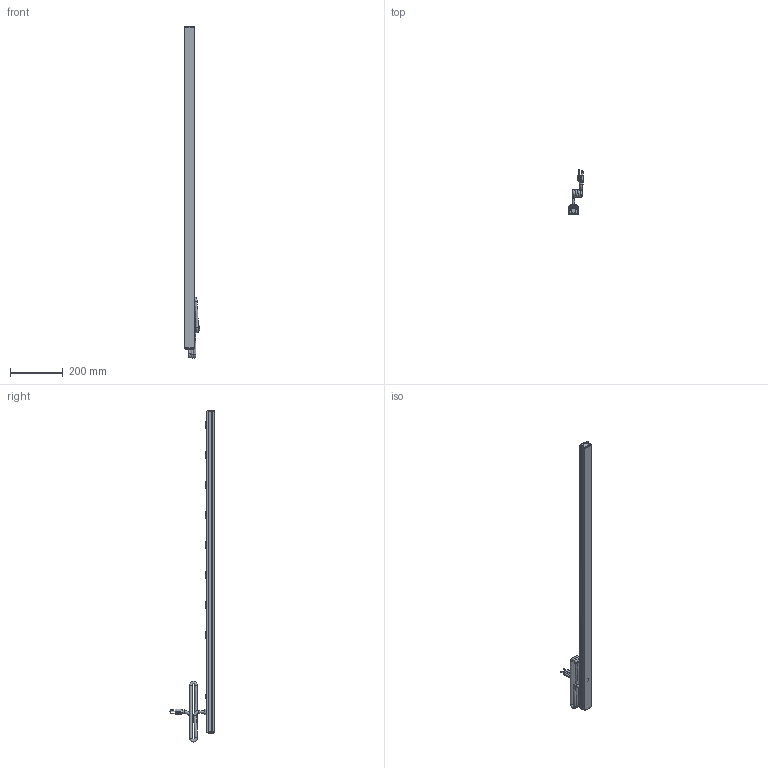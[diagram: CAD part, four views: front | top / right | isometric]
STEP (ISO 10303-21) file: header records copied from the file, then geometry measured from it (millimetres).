
FILE_DESCRIPTION(/* description */ (''),/* implementation_level */ '2;1');
FILE_NAME(/* name */ 'E:\Manufacturing\drawings\Web Drawings\POWER BARS\Surge Protection\1585, 87, 88 ''S'' series\STEP''s\1585H8A1S.stp',/* time_stamp */ '2019-01-14T12:23:02-05:00',/* author */ ('tfoster'),/* organization */ (''),/* preprocessor_version */ 'ST-DEVELOPER v17',/* originating_system */ 'Autodesk Inventor 2019',/* authorisation */ '');
FILE_SCHEMA (('AUTOMOTIVE_DESIGN { 1 0 10303 214 3 1 1 }'));
Products named in the file (14): 1585H8A1; 1585H8 top; 1585 bottom; End Cap; End Cap w breaker; Reset Switch; #29267; Cored 2; Power Switch Assembly; Power Switch; Power Switch pt; Surge Light; tamper proof screw; Receptacle
Assembly tree (23 placements, depth 3):
  1585H8A1
    1585H8 top
    1585 bottom
    End Cap
    End Cap w breaker
    Reset Switch
    #29267  x4
    Cored 2
    Power Switch Assembly
      Power Switch
      Power Switch pt
    Surge Light
    tamper proof screw
    Receptacle  x8
Bounding box: 60.19 x 170.82 x 1262.79 mm (x, y, z)
Volume: 499007.8 mm3; surface area: 478054 mm2
Topology: 22 solids, 22 shells, 1191 faces, 3223 edges, 2076 vertices
Faces by surface type: plane 648, cylinder 338, bspline 125, sphere 39, cone 27, torus 14
Full cylindrical faces by diameter (mm): 1 x1, 1.803 x3, 1.905 x2, 2.13 x20, 3 x2, 3.175 x12, 3.505 x12, 4.775 x1, 4.826 x1, 6.858 x1, 7.747 x1, 8 x1, 9.5 x5, 9.652 x1, 11 x1, 15.621 x1, 19.05 x2
Entity records: 29078 total; most frequent: CARTESIAN_POINT 11196, ORIENTED_EDGE 3826, DIRECTION 3251, EDGE_CURVE 1913, VERTEX_POINT 1266, LINE 1141, VECTOR 1141, AXIS2_PLACEMENT_3D 1055
